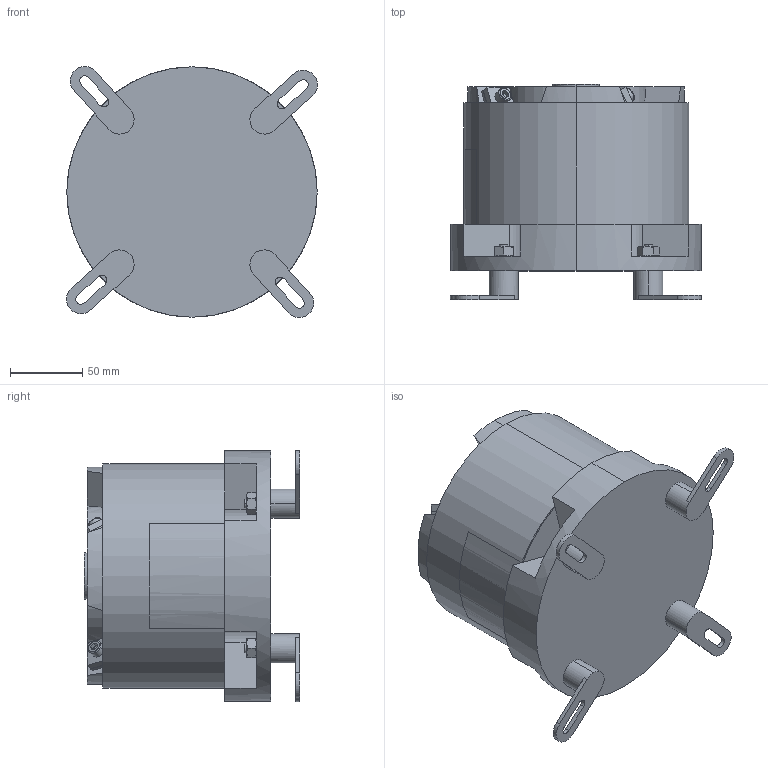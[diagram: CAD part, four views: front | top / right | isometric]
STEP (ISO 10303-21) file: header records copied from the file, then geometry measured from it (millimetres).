
FILE_DESCRIPTION(/* description */ (''),/* implementation_level */ '2;1');
FILE_NAME(/* name */ 'DE160 铝盖.stp',/* time_stamp */ '2025-07-18T07:24:27+08:00',/* author */ (''),/* organization */ (''),/* preprocessor_version */ 'ST-DEVELOPER v18.102',/* originating_system */ 'SIEMENS PLM Software NX2206.1700',/* authorisation */ '');
FILE_SCHEMA (('AUTOMOTIVE_DESIGN { 1 0 10303 214 3 1 1 1 }'));
Length unit declared in the file: millimetre
Products named in the file (1): DE160   铝盖 2023_step_objects
Bounding box: 173.55 x 149 x 173.55 mm (x, y, z)
Volume: 1950048.5 mm3; surface area: 260519.7 mm2
Topology: 23 solids, 23 shells, 405 faces, 974 edges, 619 vertices
Faces by surface type: plane 232, cylinder 115, cone 50, torus 8
Entity records: 12307 total; most frequent: CARTESIAN_POINT 2495, DIRECTION 2069, ORIENTED_EDGE 1928, EDGE_CURVE 964, AXIS2_PLACEMENT_3D 763, VERTEX_POINT 619, LINE 543, VECTOR 543
